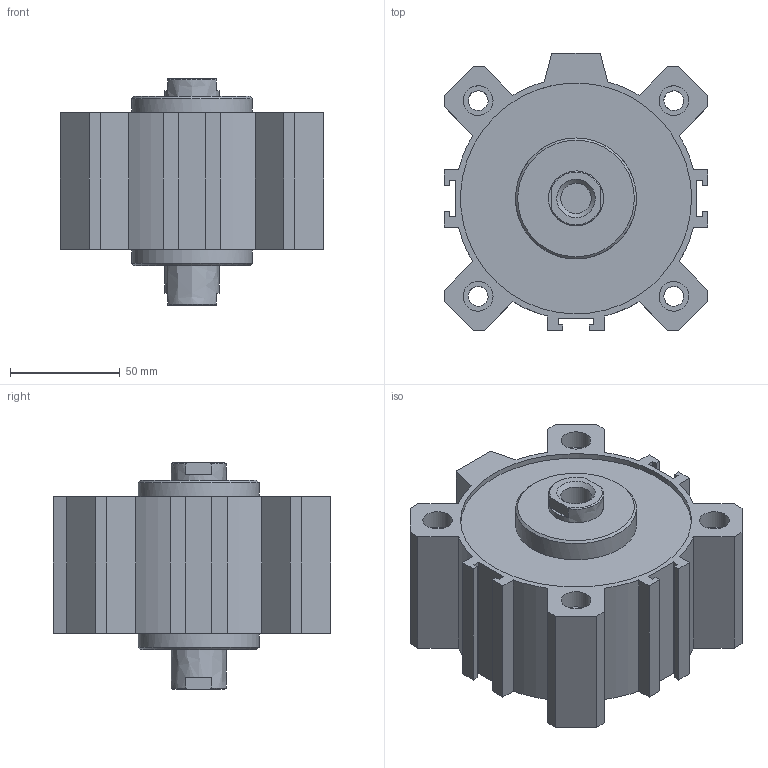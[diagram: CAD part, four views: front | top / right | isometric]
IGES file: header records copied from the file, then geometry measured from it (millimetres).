
Global section: file name: 1514_100_0010; native system: Autodesk Inventor 2014; preprocessor: unknown; author: A. Manieri; date: 20160824.162842; units: millimetre
Bounding box: 120 x 126 x 103 mm (x, y, z)
Volume: 661769.9 mm3; surface area: 131557 mm2
Topology: 2 solids, 2 shells, 132 faces, 346 edges, 238 vertices
Faces by surface type: bspline 132
